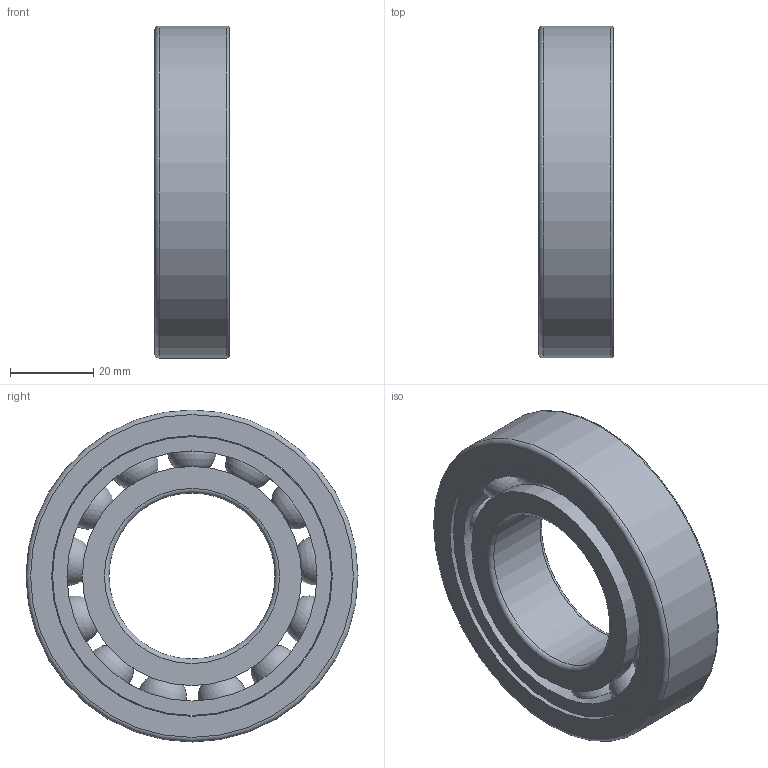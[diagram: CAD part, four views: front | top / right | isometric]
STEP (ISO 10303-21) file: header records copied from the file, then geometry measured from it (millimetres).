
FILE_DESCRIPTION(/* description */ (''),/* implementation_level */ '2;1');
FILE_NAME(/* name */ 'S_6208_TA.step',/* time_stamp */ '2013-03-06T14:49:26+01:00',/* author */ ('Marian'),/* organization */ ('GMN'),/* preprocessor_version */ 'ST-DEVELOPER v11',/* originating_system */ 'SIEMENS UGS NX 6.0',/* authorisation */ '');
FILE_SCHEMA (('CONFIG_CONTROL_DESIGN'));
Length unit declared in the file: millimetre
Products named in the file (1): S_6208_TA
Bounding box: 18 x 80 x 80 mm (x, y, z)
Volume: 51617.9 mm3; surface area: 30349.2 mm2
Topology: 16 solids, 16 shells, 46 faces, 112 edges, 72 vertices
Faces by surface type: cylinder 20, sphere 13, torus 6, plane 6, cone 1
Full cylindrical faces by diameter (mm): 12.106 x13, 40 x1, 52.8 x2, 60.246 x1, 67.2 x1, 67.6 x1, 80 x1
Entity records: 1460 total; most frequent: CARTESIAN_POINT 594, DIRECTION 134, FACE_BOUND 105, EDGE_LOOP 92, ORIENTED_EDGE 92, AXIS2_PLACEMENT_3D 67, VERTEX_POINT 59, EDGE_CURVE 46
